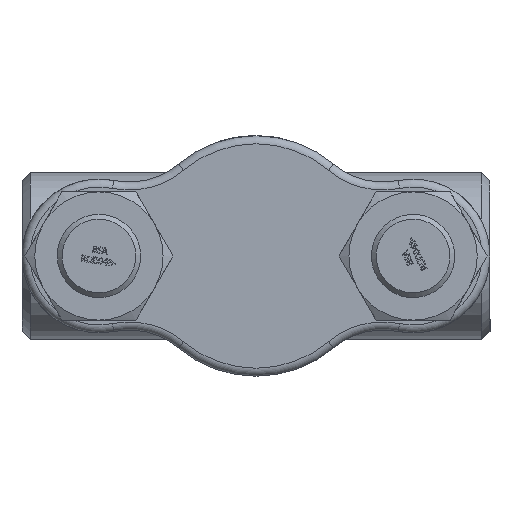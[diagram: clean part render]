
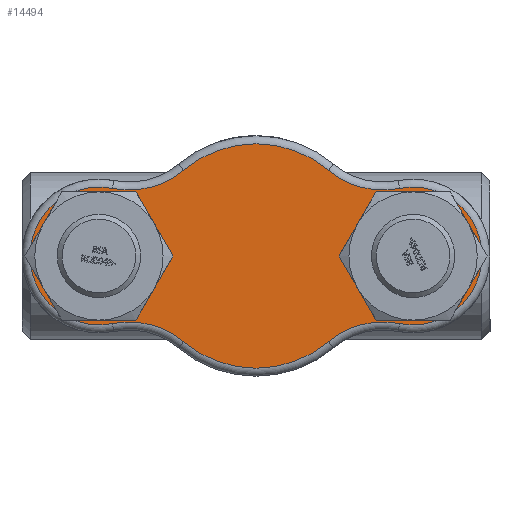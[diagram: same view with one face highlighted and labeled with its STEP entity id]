
A CAD part, front view. The second image highlights one B-rep face of the part: STEP entity #14494.
In plain terms, the highlighted planar face has unit normal (0, -1, 0) as drawn and (0, 0, -1) by its records, which use the part's own axes.
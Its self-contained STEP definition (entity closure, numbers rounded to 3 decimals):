
#3783=PLANE('',#15439);
#4193=FACE_BOUND('',#5152,.T.);
#4194=FACE_BOUND('',#5153,.T.);
#4295=FACE_OUTER_BOUND('',#5151,.T.);
#5151=EDGE_LOOP('',(#10009,#10010,#10011,#10012,#10013,#10014,#10015,#10016));
#5152=EDGE_LOOP('',(#10017));
#5153=EDGE_LOOP('',(#10018));
#6107=CIRCLE('',#15438,32.5);
#6108=CIRCLE('',#15440,43.);
#6109=CIRCLE('',#15441,53.);
#6110=CIRCLE('',#15442,70.);
#6111=CIRCLE('',#15443,53.);
#6112=CIRCLE('',#15444,43.);
#6113=CIRCLE('',#15445,53.);
#6114=CIRCLE('',#15446,70.);
#6115=CIRCLE('',#15447,53.);
#6116=CIRCLE('',#15448,32.5);
#6297=VERTEX_POINT('',#18908);
#6298=VERTEX_POINT('',#18911);
#6299=VERTEX_POINT('',#18912);
#6300=VERTEX_POINT('',#18914);
#6301=VERTEX_POINT('',#18916);
#6302=VERTEX_POINT('',#18918);
#6303=VERTEX_POINT('',#18920);
#6304=VERTEX_POINT('',#18922);
#6305=VERTEX_POINT('',#18924);
#6306=VERTEX_POINT('',#18927);
#7775=EDGE_CURVE('',#6297,#6297,#6107,.T.);
#7776=EDGE_CURVE('',#6298,#6299,#6108,.T.);
#7777=EDGE_CURVE('',#6300,#6298,#6109,.T.);
#7778=EDGE_CURVE('',#6301,#6300,#6110,.T.);
#7779=EDGE_CURVE('',#6302,#6301,#6111,.T.);
#7780=EDGE_CURVE('',#6303,#6302,#6112,.T.);
#7781=EDGE_CURVE('',#6304,#6303,#6113,.T.);
#7782=EDGE_CURVE('',#6305,#6304,#6114,.T.);
#7783=EDGE_CURVE('',#6299,#6305,#6115,.T.);
#7784=EDGE_CURVE('',#6306,#6306,#6116,.T.);
#10009=ORIENTED_EDGE('',*,*,#7776,.F.);
#10010=ORIENTED_EDGE('',*,*,#7777,.F.);
#10011=ORIENTED_EDGE('',*,*,#7778,.F.);
#10012=ORIENTED_EDGE('',*,*,#7779,.F.);
#10013=ORIENTED_EDGE('',*,*,#7780,.F.);
#10014=ORIENTED_EDGE('',*,*,#7781,.F.);
#10015=ORIENTED_EDGE('',*,*,#7782,.F.);
#10016=ORIENTED_EDGE('',*,*,#7783,.F.);
#10017=ORIENTED_EDGE('',*,*,#7784,.F.);
#10018=ORIENTED_EDGE('',*,*,#7775,.F.);
#14494=ADVANCED_FACE('',(#4295,#4193,#4194),#3783,.F.);
#15438=AXIS2_PLACEMENT_3D('',#18909,#16180,#16181);
#15439=AXIS2_PLACEMENT_3D('',#18910,#16182,#16183);
#15440=AXIS2_PLACEMENT_3D('',#18913,#16184,#16185);
#15441=AXIS2_PLACEMENT_3D('',#18915,#16186,#16187);
#15442=AXIS2_PLACEMENT_3D('',#18917,#16188,#16189);
#15443=AXIS2_PLACEMENT_3D('',#18919,#16190,#16191);
#15444=AXIS2_PLACEMENT_3D('',#18921,#16192,#16193);
#15445=AXIS2_PLACEMENT_3D('',#18923,#16194,#16195);
#15446=AXIS2_PLACEMENT_3D('',#18925,#16196,#16197);
#15447=AXIS2_PLACEMENT_3D('',#18926,#16198,#16199);
#15448=AXIS2_PLACEMENT_3D('',#18928,#16200,#16201);
#16180=DIRECTION('center_axis',(0.,0.,-1.));
#16181=DIRECTION('ref_axis',(1.,0.,0.));
#16182=DIRECTION('center_axis',(0.,0.,1.));
#16183=DIRECTION('ref_axis',(1.,0.,0.));
#16184=DIRECTION('center_axis',(0.,0.,1.));
#16185=DIRECTION('ref_axis',(-1.,0.,0.));
#16186=DIRECTION('center_axis',(0.,0.,-1.));
#16187=DIRECTION('ref_axis',(0.248,-0.969,0.));
#16188=DIRECTION('center_axis',(0.,0.,1.));
#16189=DIRECTION('ref_axis',(0.,1.,0.));
#16190=DIRECTION('center_axis',(0.,0.,-1.));
#16191=DIRECTION('ref_axis',(-0.248,-0.969,0.));
#16192=DIRECTION('center_axis',(0.,0.,1.));
#16193=DIRECTION('ref_axis',(1.,0.,0.));
#16194=DIRECTION('center_axis',(0.,0.,-1.));
#16195=DIRECTION('ref_axis',(-0.248,0.969,0.));
#16196=DIRECTION('center_axis',(0.,0.,1.));
#16197=DIRECTION('ref_axis',(0.,-1.,0.));
#16198=DIRECTION('center_axis',(0.,0.,-1.));
#16199=DIRECTION('ref_axis',(0.248,0.969,0.));
#16200=DIRECTION('center_axis',(0.,0.,-1.));
#16201=DIRECTION('ref_axis',(1.,0.,0.));
#18908=CARTESIAN_POINT('',(65.5,0.,0.));
#18909=CARTESIAN_POINT('Origin',(98.,0.,0.));
#18910=CARTESIAN_POINT('Origin',(0.,0.,
0.));
#18911=CARTESIAN_POINT('',(-89.565,42.165,0.));
#18912=CARTESIAN_POINT('',(-89.565,-42.165,0.));
#18913=CARTESIAN_POINT('Origin',(-98.,0.,0.));
#18914=CARTESIAN_POINT('',(-45.055,53.573,0.));
#18915=CARTESIAN_POINT('Origin',(-79.168,94.135,0.));
#18916=CARTESIAN_POINT('',(45.055,53.573,0.));
#18917=CARTESIAN_POINT('Origin',(0.,0.,0.));
#18918=CARTESIAN_POINT('',(89.565,42.165,0.));
#18919=CARTESIAN_POINT('Origin',(79.168,94.135,0.));
#18920=CARTESIAN_POINT('',(89.565,-42.165,0.));
#18921=CARTESIAN_POINT('Origin',(98.,0.,0.));
#18922=CARTESIAN_POINT('',(45.055,-53.573,0.));
#18923=CARTESIAN_POINT('Origin',(79.168,-94.135,0.));
#18924=CARTESIAN_POINT('',(-45.055,-53.573,0.));
#18925=CARTESIAN_POINT('Origin',(0.,0.,0.));
#18926=CARTESIAN_POINT('Origin',(-79.168,-94.135,0.));
#18927=CARTESIAN_POINT('',(-130.5,0.,0.));
#18928=CARTESIAN_POINT('Origin',(-98.,0.,0.));
